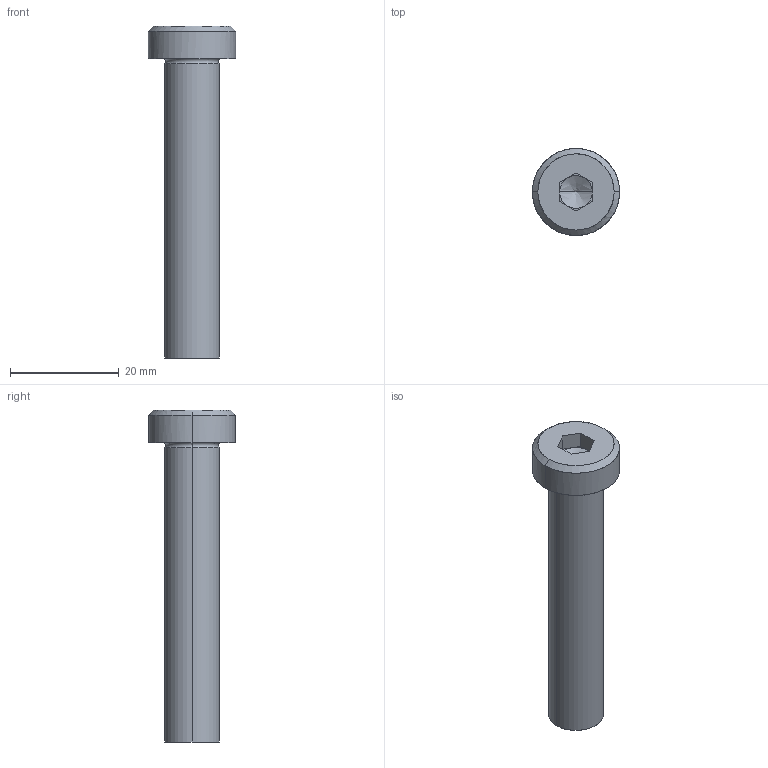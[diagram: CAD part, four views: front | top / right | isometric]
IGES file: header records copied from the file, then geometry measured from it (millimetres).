
Global section: file name: E:\UnigraphicsGraphicData\MISUMI_PRESS-PARTS\IGES\3d_sbtcn10-55_05144_r00.igs; native system: NX V5.0; preprocessor: UGS NX IGES V5.0; author: MISUMI; date: 20110105.162453; units: millimetre
Bounding box: 16 x 16 x 61 mm (x, y, z)
Surface area: 2786.6 mm2 (no closed solid volume)
Topology: 0 solids, 0 shells, 34 faces, 180 edges, 176 vertices
Faces by surface type: bspline 34
